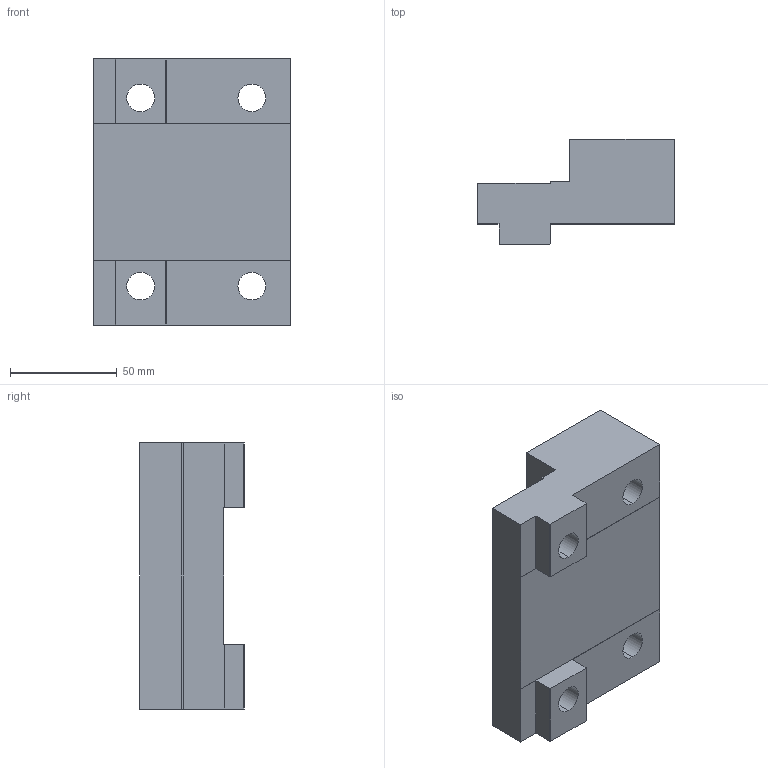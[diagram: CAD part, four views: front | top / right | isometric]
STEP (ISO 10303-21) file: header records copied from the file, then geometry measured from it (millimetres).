
FILE_DESCRIPTION (( 'STEP AP214' ), '1' );
FILE_NAME ('6921684006740.STEP', '2007-11-28T07:37:09', ( 'Markus Römer' ), ( '' ), 'SwSTEP 2.0', 'SolidWorks 2007', '' );
FILE_SCHEMA (( 'AUTOMOTIVE_DESIGN' ));
Length unit declared in the file: millimetre
Products named in the file (1): 6921684006740
Bounding box: 92 x 49 x 124.4 mm (x, y, z)
Volume: 330120.9 mm3; surface area: 45843.2 mm2
Topology: 1 solids, 1 shells, 46 faces, 120 edges, 80 vertices
Faces by surface type: plane 30, cylinder 16
Entity records: 1455 total; most frequent: CARTESIAN_POINT 247, DIRECTION 246, ORIENTED_EDGE 240, EDGE_CURVE 120, LINE 88, VECTOR 88, VERTEX_POINT 80, AXIS2_PLACEMENT_3D 79
